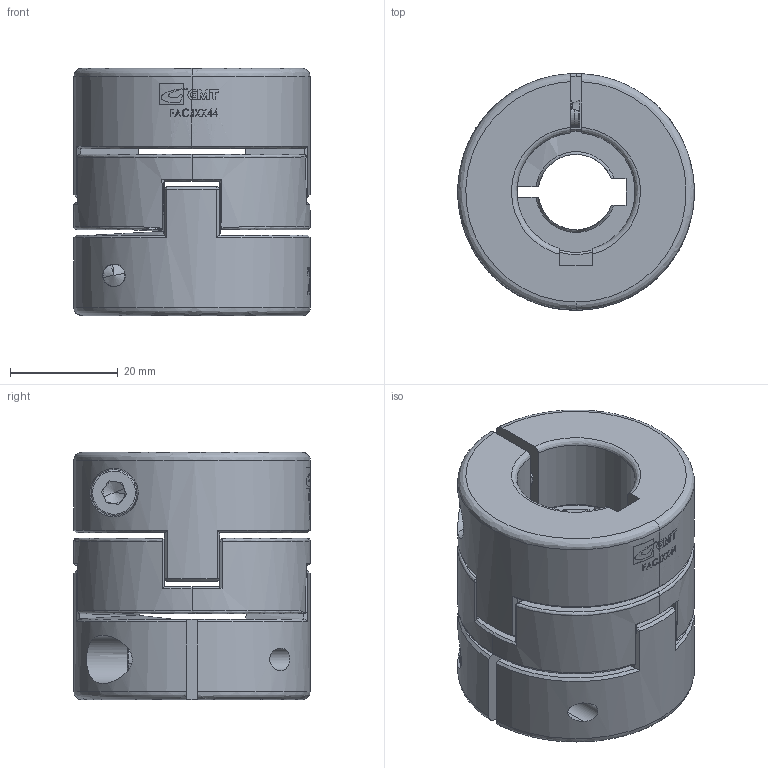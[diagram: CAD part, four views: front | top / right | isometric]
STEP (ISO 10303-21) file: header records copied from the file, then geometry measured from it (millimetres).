
FILE_DESCRIPTION (( 'STEP AP203' ), '1' );
FILE_NAME ('FACJWK44.STEP', '2008-04-04T08:53:20', ( '陳志豪' ), ( '高明鐵企業股份有限公司' ), 'SwSTEP 2.0', 'SolidWorks 2007', '' );
FILE_SCHEMA (( 'CONFIG_CONTROL_DESIGN' ));
Length unit declared in the file: millimetre
Products named in the file (1): FACJWK44
Bounding box: 44 x 44 x 46 mm (x, y, z)
Surface area: 18149.1 mm2 (no closed solid volume)
Topology: 0 solids, 8 shells, 308 faces, 987 edges, 694 vertices
Faces by surface type: plane 138, cylinder 73, bspline 60, cone 37
Entity records: 14007 total; most frequent: CARTESIAN_POINT 6597, ORIENTED_EDGE 1858, EDGE_CURVE 968, DIRECTION 957, VERTEX_POINT 682, B_SPLINE_CURVE_WITH_KNOTS 579, EDGE_LOOP 346, AXIS2_PLACEMENT_3D 336
